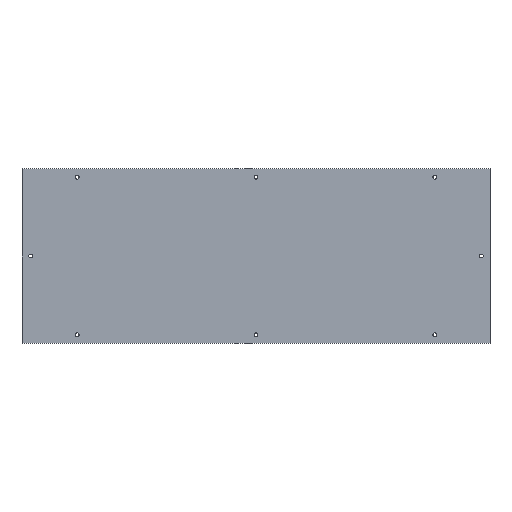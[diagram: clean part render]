
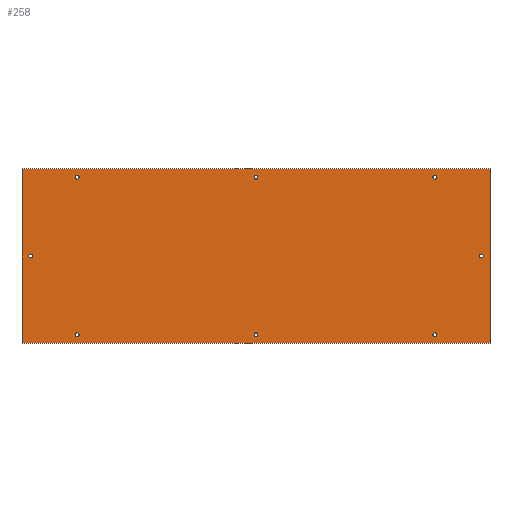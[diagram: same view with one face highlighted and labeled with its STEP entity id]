
A CAD part, top view. The second image highlights one B-rep face of the part: STEP entity #258.
In plain terms, the highlighted planar face has unit normal (0, 0, 1).
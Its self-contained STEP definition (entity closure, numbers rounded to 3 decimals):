
#55=AXIS2_PLACEMENT_3D('Circle Axis2P3D',#53,#54,$) ;
#79=AXIS2_PLACEMENT_3D('Circle Axis2P3D',#77,#78,$) ;
#92=AXIS2_PLACEMENT_3D('Plane Axis2P3D',#89,#90,#91) ;
#130=AXIS2_PLACEMENT_3D('Circle Axis2P3D',#128,#129,$) ;
#139=AXIS2_PLACEMENT_3D('Circle Axis2P3D',#137,#138,$) ;
#148=AXIS2_PLACEMENT_3D('Circle Axis2P3D',#146,#147,$) ;
#157=AXIS2_PLACEMENT_3D('Circle Axis2P3D',#155,#156,$) ;
#166=AXIS2_PLACEMENT_3D('Circle Axis2P3D',#164,#165,$) ;
#175=AXIS2_PLACEMENT_3D('Circle Axis2P3D',#173,#174,$) ;
#184=AXIS2_PLACEMENT_3D('Circle Axis2P3D',#182,#183,$) ;
#193=AXIS2_PLACEMENT_3D('Circle Axis2P3D',#191,#192,$) ;
#202=AXIS2_PLACEMENT_3D('Circle Axis2P3D',#200,#201,$) ;
#211=AXIS2_PLACEMENT_3D('Circle Axis2P3D',#209,#210,$) ;
#220=AXIS2_PLACEMENT_3D('Circle Axis2P3D',#218,#219,$) ;
#229=AXIS2_PLACEMENT_3D('Circle Axis2P3D',#227,#228,$) ;
#242=AXIS2_PLACEMENT_3D('Circle Axis2P3D',#240,#241,$) ;
#251=AXIS2_PLACEMENT_3D('Circle Axis2P3D',#249,#250,$) ;
#50=CARTESIAN_POINT('Vertex',(9.25,-122.,2.)) ;
#53=CARTESIAN_POINT('Axis2P3D Location',(12.,-122.,2.)) ;
#57=CARTESIAN_POINT('Vertex',(14.75,-122.,2.)) ;
#77=CARTESIAN_POINT('Axis2P3D Location',(12.,-122.,2.)) ;
#89=CARTESIAN_POINT('Axis2P3D Location',(0.,0.,2.)) ;
#94=CARTESIAN_POINT('Line Origine',(0.,-122.,2.)) ;
#98=CARTESIAN_POINT('Vertex',(0.,0.,2.)) ;
#100=CARTESIAN_POINT('Vertex',(0.,-244.,2.)) ;
#103=CARTESIAN_POINT('Line Origine',(327.,-244.,2.)) ;
#107=CARTESIAN_POINT('Vertex',(654.,-244.,2.)) ;
#110=CARTESIAN_POINT('Line Origine',(654.,-122.,2.)) ;
#114=CARTESIAN_POINT('Vertex',(654.,0.,2.)) ;
#117=CARTESIAN_POINT('Line Origine',(327.,0.,2.)) ;
#128=CARTESIAN_POINT('Axis2P3D Location',(77.,-12.,2.)) ;
#132=CARTESIAN_POINT('Vertex',(79.75,-12.,2.)) ;
#134=CARTESIAN_POINT('Vertex',(74.25,-12.,2.)) ;
#137=CARTESIAN_POINT('Axis2P3D Location',(77.,-12.,2.)) ;
#146=CARTESIAN_POINT('Axis2P3D Location',(77.,-232.,2.)) ;
#150=CARTESIAN_POINT('Vertex',(79.75,-232.,2.)) ;
#152=CARTESIAN_POINT('Vertex',(74.25,-232.,2.)) ;
#155=CARTESIAN_POINT('Axis2P3D Location',(77.,-232.,2.)) ;
#164=CARTESIAN_POINT('Axis2P3D Location',(577.,-12.,2.)) ;
#168=CARTESIAN_POINT('Vertex',(579.75,-12.,2.)) ;
#170=CARTESIAN_POINT('Vertex',(574.25,-12.,2.)) ;
#173=CARTESIAN_POINT('Axis2P3D Location',(577.,-12.,2.)) ;
#182=CARTESIAN_POINT('Axis2P3D Location',(327.,-12.,2.)) ;
#186=CARTESIAN_POINT('Vertex',(329.75,-12.,2.)) ;
#188=CARTESIAN_POINT('Vertex',(324.25,-12.,2.)) ;
#191=CARTESIAN_POINT('Axis2P3D Location',(327.,-12.,2.)) ;
#200=CARTESIAN_POINT('Axis2P3D Location',(327.,-232.,2.)) ;
#204=CARTESIAN_POINT('Vertex',(329.75,-232.,2.)) ;
#206=CARTESIAN_POINT('Vertex',(324.25,-232.,2.)) ;
#209=CARTESIAN_POINT('Axis2P3D Location',(327.,-232.,2.)) ;
#218=CARTESIAN_POINT('Axis2P3D Location',(577.,-232.,2.)) ;
#222=CARTESIAN_POINT('Vertex',(579.75,-232.,2.)) ;
#224=CARTESIAN_POINT('Vertex',(574.25,-232.,2.)) ;
#227=CARTESIAN_POINT('Axis2P3D Location',(577.,-232.,2.)) ;
#240=CARTESIAN_POINT('Axis2P3D Location',(642.,-122.,2.)) ;
#244=CARTESIAN_POINT('Vertex',(644.75,-122.,2.)) ;
#246=CARTESIAN_POINT('Vertex',(639.25,-122.,2.)) ;
#249=CARTESIAN_POINT('Axis2P3D Location',(642.,-122.,2.)) ;
#54=DIRECTION('Axis2P3D Direction',(0.,0.,1.)) ;
#78=DIRECTION('Axis2P3D Direction',(0.,0.,1.)) ;
#90=DIRECTION('Axis2P3D Direction',(0.,0.,1.)) ;
#91=DIRECTION('Axis2P3D XDirection',(1.,0.,0.)) ;
#95=DIRECTION('Vector Direction',(0.,-1.,0.)) ;
#104=DIRECTION('Vector Direction',(-1.,0.,0.)) ;
#111=DIRECTION('Vector Direction',(0.,1.,0.)) ;
#118=DIRECTION('Vector Direction',(1.,0.,0.)) ;
#129=DIRECTION('Axis2P3D Direction',(0.,0.,1.)) ;
#138=DIRECTION('Axis2P3D Direction',(0.,0.,1.)) ;
#147=DIRECTION('Axis2P3D Direction',(0.,0.,1.)) ;
#156=DIRECTION('Axis2P3D Direction',(0.,0.,1.)) ;
#165=DIRECTION('Axis2P3D Direction',(0.,0.,1.)) ;
#174=DIRECTION('Axis2P3D Direction',(0.,0.,1.)) ;
#183=DIRECTION('Axis2P3D Direction',(0.,0.,1.)) ;
#192=DIRECTION('Axis2P3D Direction',(0.,0.,1.)) ;
#201=DIRECTION('Axis2P3D Direction',(0.,0.,1.)) ;
#210=DIRECTION('Axis2P3D Direction',(0.,0.,1.)) ;
#219=DIRECTION('Axis2P3D Direction',(0.,0.,1.)) ;
#228=DIRECTION('Axis2P3D Direction',(0.,0.,1.)) ;
#241=DIRECTION('Axis2P3D Direction',(0.,0.,1.)) ;
#250=DIRECTION('Axis2P3D Direction',(0.,0.,1.)) ;
#96=VECTOR('Line Direction',#95,1.) ;
#105=VECTOR('Line Direction',#104,1.) ;
#112=VECTOR('Line Direction',#111,1.) ;
#119=VECTOR('Line Direction',#118,1.) ;
#123=ORIENTED_EDGE('',*,*,#102,.T.) ;
#124=ORIENTED_EDGE('',*,*,#109,.T.) ;
#125=ORIENTED_EDGE('',*,*,#116,.T.) ;
#126=ORIENTED_EDGE('',*,*,#121,.T.) ;
#143=ORIENTED_EDGE('',*,*,#136,.F.) ;
#144=ORIENTED_EDGE('',*,*,#141,.F.) ;
#161=ORIENTED_EDGE('',*,*,#154,.F.) ;
#162=ORIENTED_EDGE('',*,*,#159,.F.) ;
#179=ORIENTED_EDGE('',*,*,#172,.F.) ;
#180=ORIENTED_EDGE('',*,*,#177,.F.) ;
#197=ORIENTED_EDGE('',*,*,#190,.F.) ;
#198=ORIENTED_EDGE('',*,*,#195,.F.) ;
#215=ORIENTED_EDGE('',*,*,#208,.F.) ;
#216=ORIENTED_EDGE('',*,*,#213,.F.) ;
#233=ORIENTED_EDGE('',*,*,#226,.F.) ;
#234=ORIENTED_EDGE('',*,*,#231,.F.) ;
#237=ORIENTED_EDGE('',*,*,#81,.F.) ;
#238=ORIENTED_EDGE('',*,*,#59,.F.) ;
#255=ORIENTED_EDGE('',*,*,#248,.F.) ;
#256=ORIENTED_EDGE('',*,*,#253,.F.) ;
#145=FACE_BOUND('',#142,.T.) ;
#163=FACE_BOUND('',#160,.T.) ;
#181=FACE_BOUND('',#178,.T.) ;
#199=FACE_BOUND('',#196,.T.) ;
#217=FACE_BOUND('',#214,.T.) ;
#235=FACE_BOUND('',#232,.T.) ;
#239=FACE_BOUND('',#236,.T.) ;
#257=FACE_BOUND('',#254,.T.) ;
#258=ADVANCED_FACE('\X2\96F64EF651E04F554F53\X0\',(#127,#145,#163,#181,#199,#217,#235,#239,#257),#93,.T.) ;
#56=CIRCLE('generated circle',#55,2.75) ;
#80=CIRCLE('generated circle',#79,2.75) ;
#131=CIRCLE('generated circle',#130,2.75) ;
#140=CIRCLE('generated circle',#139,2.75) ;
#149=CIRCLE('generated circle',#148,2.75) ;
#158=CIRCLE('generated circle',#157,2.75) ;
#167=CIRCLE('generated circle',#166,2.75) ;
#176=CIRCLE('generated circle',#175,2.75) ;
#185=CIRCLE('generated circle',#184,2.75) ;
#194=CIRCLE('generated circle',#193,2.75) ;
#203=CIRCLE('generated circle',#202,2.75) ;
#212=CIRCLE('generated circle',#211,2.75) ;
#221=CIRCLE('generated circle',#220,2.75) ;
#230=CIRCLE('generated circle',#229,2.75) ;
#243=CIRCLE('generated circle',#242,2.75) ;
#252=CIRCLE('generated circle',#251,2.75) ;
#59=EDGE_CURVE('',#51,#58,#56,.T.) ;
#81=EDGE_CURVE('',#58,#51,#80,.T.) ;
#102=EDGE_CURVE('',#99,#101,#97,.T.) ;
#109=EDGE_CURVE('',#101,#108,#106,.F.) ;
#116=EDGE_CURVE('',#108,#115,#113,.T.) ;
#121=EDGE_CURVE('',#115,#99,#120,.F.) ;
#136=EDGE_CURVE('',#133,#135,#131,.T.) ;
#141=EDGE_CURVE('',#135,#133,#140,.T.) ;
#154=EDGE_CURVE('',#151,#153,#149,.T.) ;
#159=EDGE_CURVE('',#153,#151,#158,.T.) ;
#172=EDGE_CURVE('',#169,#171,#167,.T.) ;
#177=EDGE_CURVE('',#171,#169,#176,.T.) ;
#190=EDGE_CURVE('',#187,#189,#185,.T.) ;
#195=EDGE_CURVE('',#189,#187,#194,.T.) ;
#208=EDGE_CURVE('',#205,#207,#203,.T.) ;
#213=EDGE_CURVE('',#207,#205,#212,.T.) ;
#226=EDGE_CURVE('',#223,#225,#221,.T.) ;
#231=EDGE_CURVE('',#225,#223,#230,.T.) ;
#248=EDGE_CURVE('',#245,#247,#243,.T.) ;
#253=EDGE_CURVE('',#247,#245,#252,.T.) ;
#122=EDGE_LOOP('',(#123,#124,#125,#126)) ;
#142=EDGE_LOOP('',(#143,#144)) ;
#160=EDGE_LOOP('',(#161,#162)) ;
#178=EDGE_LOOP('',(#179,#180)) ;
#196=EDGE_LOOP('',(#197,#198)) ;
#214=EDGE_LOOP('',(#215,#216)) ;
#232=EDGE_LOOP('',(#233,#234)) ;
#236=EDGE_LOOP('',(#237,#238)) ;
#254=EDGE_LOOP('',(#255,#256)) ;
#127=FACE_OUTER_BOUND('',#122,.T.) ;
#97=LINE('Line',#94,#96) ;
#106=LINE('Line',#103,#105) ;
#113=LINE('Line',#110,#112) ;
#120=LINE('Line',#117,#119) ;
#93=PLANE('',#92) ;
#51=VERTEX_POINT('',#50) ;
#58=VERTEX_POINT('',#57) ;
#99=VERTEX_POINT('',#98) ;
#101=VERTEX_POINT('',#100) ;
#108=VERTEX_POINT('',#107) ;
#115=VERTEX_POINT('',#114) ;
#133=VERTEX_POINT('',#132) ;
#135=VERTEX_POINT('',#134) ;
#151=VERTEX_POINT('',#150) ;
#153=VERTEX_POINT('',#152) ;
#169=VERTEX_POINT('',#168) ;
#171=VERTEX_POINT('',#170) ;
#187=VERTEX_POINT('',#186) ;
#189=VERTEX_POINT('',#188) ;
#205=VERTEX_POINT('',#204) ;
#207=VERTEX_POINT('',#206) ;
#223=VERTEX_POINT('',#222) ;
#225=VERTEX_POINT('',#224) ;
#245=VERTEX_POINT('',#244) ;
#247=VERTEX_POINT('',#246) ;
